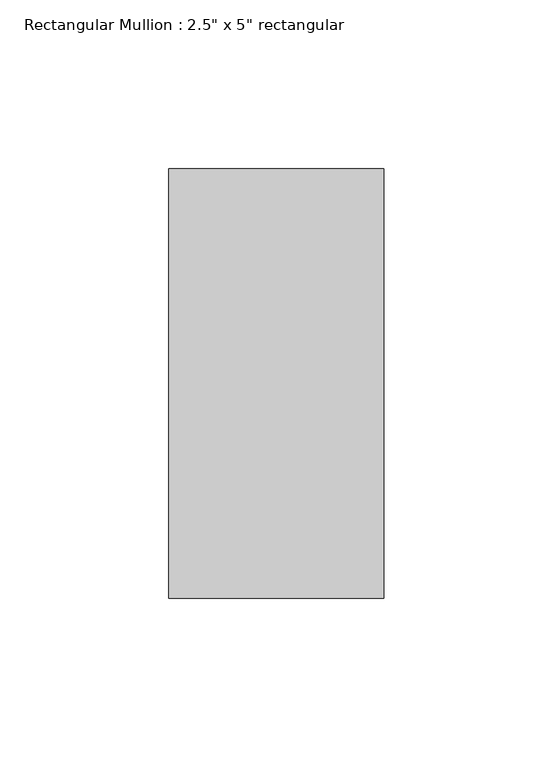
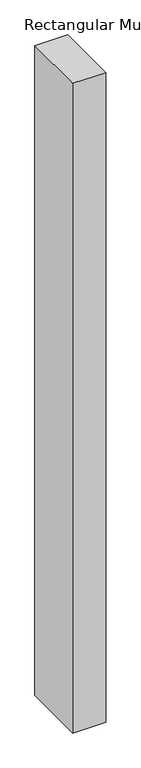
"""IFC4 building model written with IfcOpenShell, lengths in millimetres: member geometry."""

from ifc_helpers import new_model, si_unit, frame, origin, place, context, project, spatial, polyline, outline, extrude, source, transform, mapped, element, save


def member_f2369058(model_context):
    return source(origin(), model_context, "Body", "SweptSolid", [
        extrude(outline(polyline([(31.75, 63.5), (31.75, -63.5), (-31.75, -63.5), (-31.75, 63.5), (31.75, 63.5)])), frame((0.0, 0.0, -1327.4090909), z_axis=(0.0, 0.0, 1.0), x_axis=(1.0, 0.0, 0.0)), (0.0, 0.0, 1.0), 1327.4090909),
    ])


if __name__ == "__main__":
    model = new_model("IFC4")
    model_context = context("Model", 3, world=origin())
    ifc_project = project(units=[si_unit("LENGTHUNIT", "METRE", prefix="MILLI")], contexts=[model_context])
    site = spatial("IfcSite", under=ifc_project)
    building = spatial("IfcBuilding", under=site)
    placement = place(None, origin())
    member_shape = member_f2369058(model_context)
    element("IfcMember", 1, ObjectType="Rectangular Mullion : 2.5\" x 5\" rectangular", at=placement, inside=building, context=model_context, shape_type="MappedRepresentation", body=[
        mapped(member_shape, transform((0.0, 0.0, 0.0), x_axis=(1.0, 0.0, 0.0), y_axis=(0.0, 1.0, 0.0), z_axis=(0.0, 0.0, 1.0))),
    ])
    save(model, "model.ifc")
